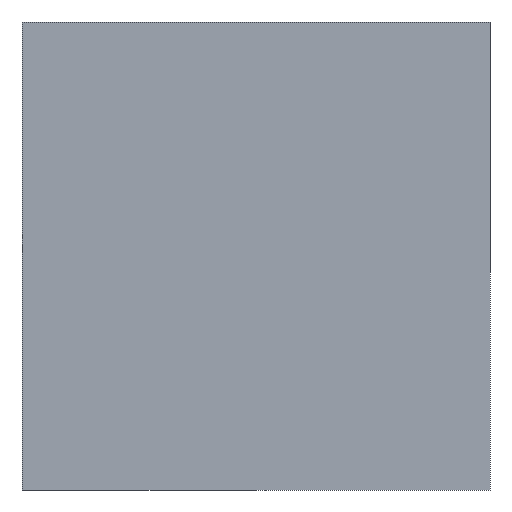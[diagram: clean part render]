
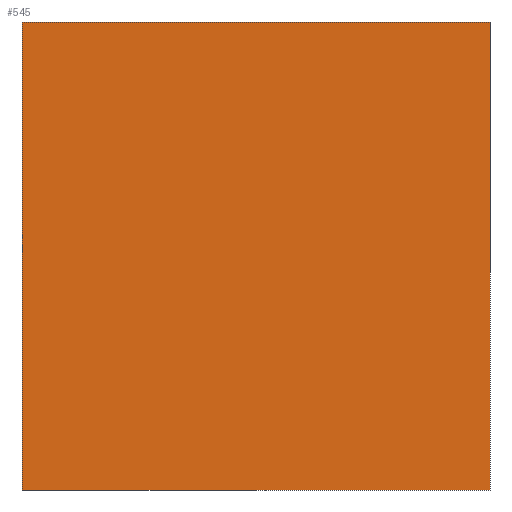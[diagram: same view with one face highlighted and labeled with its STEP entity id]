
A CAD part, left-side view. The second image highlights one B-rep face of the part: STEP entity #545.
In plain terms, the highlighted planar face has unit normal (-1, 0, 0).
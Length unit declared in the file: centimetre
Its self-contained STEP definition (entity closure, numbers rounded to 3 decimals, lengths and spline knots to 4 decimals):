
#8 = LINE ( 'NONE', #425, #444 ) ;
#42 = CARTESIAN_POINT ( 'NONE',  ( 0., 1000., 0. ) ) ;
#53 = VERTEX_POINT ( 'NONE', #426 ) ;
#81 = CARTESIAN_POINT ( 'NONE',  ( 0., 1000., 1000. ) ) ;
#108 = CARTESIAN_POINT ( 'NONE',  ( 0., 1000., 1000. ) ) ;
#117 = ORIENTED_EDGE ( 'NONE', *, *, #220, .T. ) ;
#121 = VERTEX_POINT ( 'NONE', #491 ) ;
#159 = LINE ( 'NONE', #108, #528 ) ;
#199 = ORIENTED_EDGE ( 'NONE', *, *, #324, .T. ) ;
#220 = EDGE_CURVE ( 'NONE', #752, #53, #325, .T. ) ;
#251 = DIRECTION ( 'NONE',  ( 0., 0., -1. ) ) ;
#277 = DIRECTION ( 'NONE',  ( 0., 0., -1. ) ) ;
#295 = FACE_OUTER_BOUND ( 'NONE', #611, .T. ) ;
#318 = DIRECTION ( 'NONE',  ( 0., -1., 0. ) ) ;
#320 = VERTEX_POINT ( 'NONE', #338 ) ;
#324 = EDGE_CURVE ( 'NONE', #320, #752, #159, .T. ) ;
#325 = LINE ( 'NONE', #42, #756 ) ;
#338 = CARTESIAN_POINT ( 'NONE',  ( 0., 1000., 1000. ) ) ;
#346 = AXIS2_PLACEMENT_3D ( 'NONE', #771, #475, #713 ) ;
#352 = ORIENTED_EDGE ( 'NONE', *, *, #664, .F. ) ;
#425 = CARTESIAN_POINT ( 'NONE',  ( 0., 0., 1000. ) ) ;
#426 = CARTESIAN_POINT ( 'NONE',  ( 0., 0., 0. ) ) ;
#439 = LINE ( 'NONE', #81, #743 ) ;
#444 = VECTOR ( 'NONE', #251, 100. ) ;
#475 = DIRECTION ( 'NONE',  ( 1., 0., 0. ) ) ;
#491 = CARTESIAN_POINT ( 'NONE',  ( 0., 0., 1000. ) ) ;
#528 = VECTOR ( 'NONE', #277, 100. ) ;
#533 = PLANE ( 'NONE',  #346 ) ;
#545 = ADVANCED_FACE ( 'NONE', ( #295 ), #533, .F. ) ;
#594 = CARTESIAN_POINT ( 'NONE',  ( 0., 1000., 0. ) ) ;
#611 = EDGE_LOOP ( 'NONE', ( #117, #352, #646, #199 ) ) ;
#639 = EDGE_CURVE ( 'NONE', #320, #121, #439, .T. ) ;
#646 = ORIENTED_EDGE ( 'NONE', *, *, #639, .F. ) ;
#664 = EDGE_CURVE ( 'NONE', #121, #53, #8, .T. ) ;
#713 = DIRECTION ( 'NONE',  ( 0., 0., -1. ) ) ;
#743 = VECTOR ( 'NONE', #318, 100. ) ;
#750 = DIRECTION ( 'NONE',  ( 0., -1., 0. ) ) ;
#752 = VERTEX_POINT ( 'NONE', #594 ) ;
#756 = VECTOR ( 'NONE', #750, 100. ) ;
#771 = CARTESIAN_POINT ( 'NONE',  ( 0., 1000., 1000. ) ) ;
